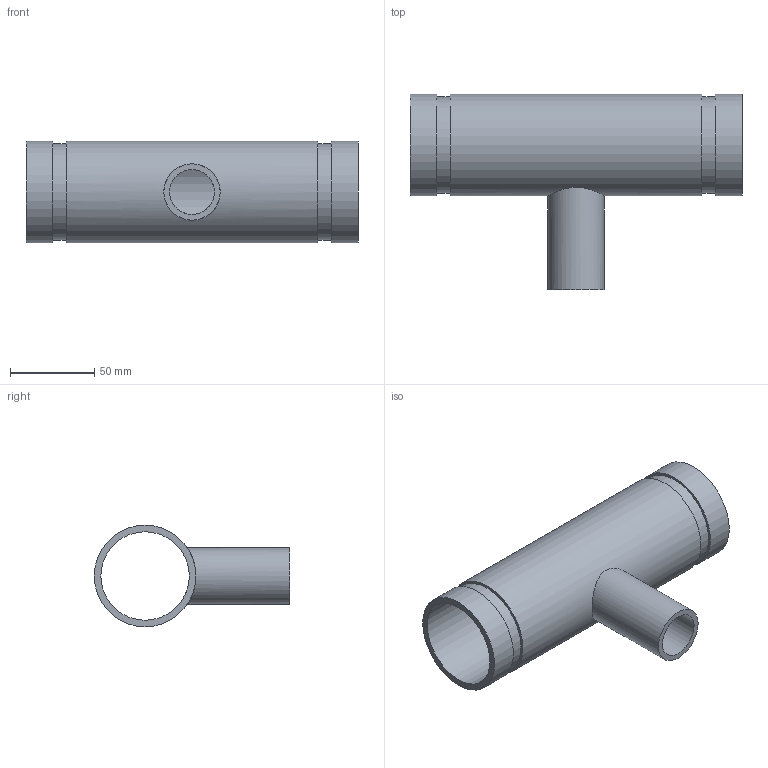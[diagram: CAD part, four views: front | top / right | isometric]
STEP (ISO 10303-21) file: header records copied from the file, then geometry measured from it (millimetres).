
FILE_DESCRIPTION(/* description */ ('VIC REDUCING TEE No 29T FFT (OGSxMPT)','CAx-IF Rec.Pracs.---Representation and Presentation of Product Manufacturing Information (PMI)---4.0---2014-10-13'),/* implementation_level */ '2;1');
FILE_NAME(/* name */ 'C:\Users\kkamble\AppData\Roaming\Autodesk\ApplicationPlugins\Back Up\Victaulic_IPS_Tee Reducing_No 29T FFT (OGSxMPT)\Victaulic_IPS_Tee Reducing_No 29T FFT (OGSxMPT)_02.0x01.0 (50x25).stp',/* time_stamp */ '2020-09-16T22:37:07+05:00',/* author */ ('CORINNE GRAY'),/* organization */ ('Victaulic'),/* preprocessor_version */ 'ST-DEVELOPER v17.2',/* originating_system */ 'Autodesk Inventor 2019',/* authorisation */ '');
FILE_SCHEMA (('AP242_MANAGED_MODEL_BASED_3D_ENGINEERING_MIM_LF { 1 0 10303 442 1 1 4 }'));
Length unit declared in the file: inch
Products named in the file (1): 29 FFT-02.0x01.0
Bounding box: 197.1 x 116.01 x 60.33 mm (x, y, z)
Volume: 148110 mm3; surface area: 82331.4 mm2
Topology: 1 solids, 1 shells, 15 faces, 32 edges, 24 vertices
Faces by surface type: cylinder 8, plane 7
Full cylindrical faces by diameter (mm): 26.645 x1, 33.401 x1, 52.502 x1, 57.15 x2, 60.325 x3
Entity records: 685 total; most frequent: CARTESIAN_POINT 197, DIRECTION 106, ORIENTED_EDGE 64, AXIS2_PLACEMENT_3D 49, EDGE_CURVE 32, EDGE_LOOP 24, VERTEX_POINT 24, CIRCLE 20
